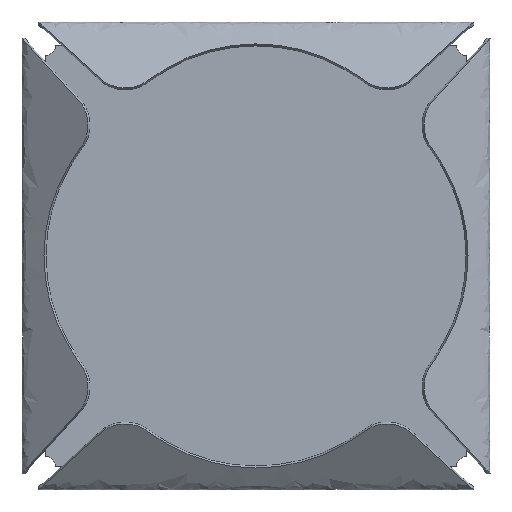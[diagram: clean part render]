
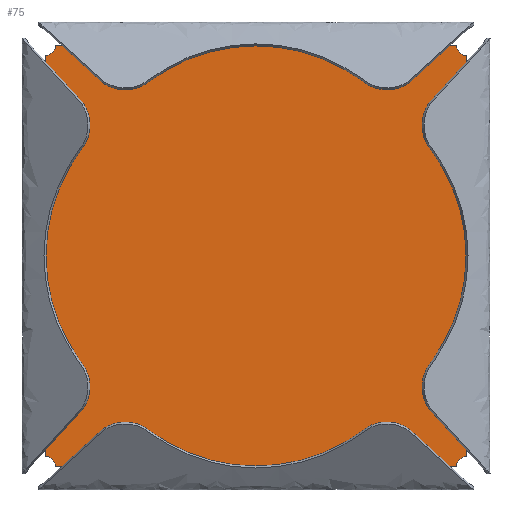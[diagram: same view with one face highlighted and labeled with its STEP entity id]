
A CAD part, top view. The second image highlights one B-rep face of the part: STEP entity #75.
In plain terms, the highlighted planar face has unit normal (0, 0, 1).
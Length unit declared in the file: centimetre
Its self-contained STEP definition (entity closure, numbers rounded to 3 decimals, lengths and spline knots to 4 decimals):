
#75=ADVANCED_FACE($,(#161),#1161,.T.);
#161=FACE_OUTER_BOUND($,#247,.T.);
#247=EDGE_LOOP($,(#356,#357,#358,#359,#360,#361,#362,#363,#364,#365,#366,
#367,#368,#369,#370,#371));
#356=ORIENTED_EDGE($,*,*,#803,.F.);
#357=ORIENTED_EDGE($,*,*,#773,.F.);
#358=ORIENTED_EDGE($,*,*,#789,.F.);
#359=ORIENTED_EDGE($,*,*,#781,.F.);
#360=ORIENTED_EDGE($,*,*,#797,.F.);
#361=ORIENTED_EDGE($,*,*,#782,.F.);
#362=ORIENTED_EDGE($,*,*,#798,.F.);
#363=ORIENTED_EDGE($,*,*,#783,.F.);
#364=ORIENTED_EDGE($,*,*,#799,.F.);
#365=ORIENTED_EDGE($,*,*,#784,.F.);
#366=ORIENTED_EDGE($,*,*,#800,.F.);
#367=ORIENTED_EDGE($,*,*,#785,.F.);
#368=ORIENTED_EDGE($,*,*,#801,.F.);
#369=ORIENTED_EDGE($,*,*,#786,.F.);
#370=ORIENTED_EDGE($,*,*,#802,.F.);
#371=ORIENTED_EDGE($,*,*,#787,.F.);
#773=EDGE_CURVE($,#991,#990,#1339,.T.);
#781=EDGE_CURVE($,#1007,#1006,#1182,.T.);
#782=EDGE_CURVE($,#1009,#1008,#1343,.T.);
#783=EDGE_CURVE($,#1011,#1010,#1183,.T.);
#784=EDGE_CURVE($,#1013,#1012,#1344,.T.);
#785=EDGE_CURVE($,#1015,#1014,#1184,.T.);
#786=EDGE_CURVE($,#1017,#1016,#1345,.T.);
#787=EDGE_CURVE($,#1019,#1018,#1185,.T.);
#789=EDGE_CURVE($,#1006,#991,#1347,.T.);
#797=EDGE_CURVE($,#1008,#1007,#1355,.T.);
#798=EDGE_CURVE($,#1010,#1009,#1356,.T.);
#799=EDGE_CURVE($,#1012,#1011,#1357,.T.);
#800=EDGE_CURVE($,#1014,#1013,#1358,.T.);
#801=EDGE_CURVE($,#1016,#1015,#1359,.T.);
#802=EDGE_CURVE($,#1018,#1017,#1360,.T.);
#803=EDGE_CURVE($,#990,#1019,#1361,.T.);
#990=VERTEX_POINT($,#1804);
#991=VERTEX_POINT($,#1805);
#1006=VERTEX_POINT($,#1820);
#1007=VERTEX_POINT($,#1821);
#1008=VERTEX_POINT($,#1822);
#1009=VERTEX_POINT($,#1823);
#1010=VERTEX_POINT($,#1824);
#1011=VERTEX_POINT($,#1825);
#1012=VERTEX_POINT($,#1826);
#1013=VERTEX_POINT($,#1827);
#1014=VERTEX_POINT($,#1828);
#1015=VERTEX_POINT($,#1829);
#1016=VERTEX_POINT($,#1830);
#1017=VERTEX_POINT($,#1831);
#1018=VERTEX_POINT($,#1832);
#1019=VERTEX_POINT($,#1833);
#1161=PLANE($,#1483);
#1182=B_SPLINE_CURVE_WITH_KNOTS($,1,(#1547,#1548),.UNSPECIFIED.,.F.,.F.,
(2,2),(300.4094,369.4295),.UNSPECIFIED.);
#1183=B_SPLINE_CURVE_WITH_KNOTS($,1,(#1552,#1553),.UNSPECIFIED.,.F.,.F.,
(2,2),(228.182,297.2021),.UNSPECIFIED.);
#1184=B_SPLINE_CURVE_WITH_KNOTS($,1,(#1557,#1558),.UNSPECIFIED.,.F.,.F.,
(2,2),(155.9546,224.9746),.UNSPECIFIED.);
#1185=B_SPLINE_CURVE_WITH_KNOTS($,1,(#1562,#1563),.UNSPECIFIED.,.F.,.F.,
(2,2),(83.7271,152.7472),.UNSPECIFIED.);
#1339=(
BOUNDED_CURVE()
B_SPLINE_CURVE(2,(#1527,#1528,#1529),.UNSPECIFIED.,.F.,.F.)
B_SPLINE_CURVE_WITH_KNOTS((3,3),(80.89,83.3569),.UNSPECIFIED.)
CURVE()
GEOMETRIC_REPRESENTATION_ITEM()
RATIONAL_B_SPLINE_CURVE((1.,0.774,1.))
REPRESENTATION_ITEM($)
);
#1343=(
BOUNDED_CURVE()
B_SPLINE_CURVE(2,(#1549,#1550,#1551),.UNSPECIFIED.,.F.,.F.)
B_SPLINE_CURVE_WITH_KNOTS((3,3),(297.5723,300.0392),.UNSPECIFIED.)
CURVE()
GEOMETRIC_REPRESENTATION_ITEM()
RATIONAL_B_SPLINE_CURVE((1.,0.774,1.))
REPRESENTATION_ITEM($)
);
#1344=(
BOUNDED_CURVE()
B_SPLINE_CURVE(2,(#1554,#1555,#1556),.UNSPECIFIED.,.F.,.F.)
B_SPLINE_CURVE_WITH_KNOTS((3,3),(225.3449,227.8117),.UNSPECIFIED.)
CURVE()
GEOMETRIC_REPRESENTATION_ITEM()
RATIONAL_B_SPLINE_CURVE((1.,0.774,1.))
REPRESENTATION_ITEM($)
);
#1345=(
BOUNDED_CURVE()
B_SPLINE_CURVE(2,(#1559,#1560,#1561),.UNSPECIFIED.,.F.,.F.)
B_SPLINE_CURVE_WITH_KNOTS((3,3),(153.1175,155.5843),.UNSPECIFIED.)
CURVE()
GEOMETRIC_REPRESENTATION_ITEM()
RATIONAL_B_SPLINE_CURVE((1.,0.774,1.))
REPRESENTATION_ITEM($)
);
#1347=(
BOUNDED_CURVE()
B_SPLINE_CURVE(2,(#1567,#1568,#1569),.UNSPECIFIED.,.F.,.F.)
B_SPLINE_CURVE_WITH_KNOTS((3,3),(-1.,0.),.UNSPECIFIED.)
CURVE()
GEOMETRIC_REPRESENTATION_ITEM()
RATIONAL_B_SPLINE_CURVE((1.,0.742,1.))
REPRESENTATION_ITEM($)
);
#1355=(
BOUNDED_CURVE()
B_SPLINE_CURVE(2,(#1591,#1592,#1593),.UNSPECIFIED.,.F.,.F.)
B_SPLINE_CURVE_WITH_KNOTS((3,3),(-1.,0.),.UNSPECIFIED.)
CURVE()
GEOMETRIC_REPRESENTATION_ITEM()
RATIONAL_B_SPLINE_CURVE((1.,0.742,1.))
REPRESENTATION_ITEM($)
);
#1356=(
BOUNDED_CURVE()
B_SPLINE_CURVE(2,(#1594,#1595,#1596),.UNSPECIFIED.,.F.,.F.)
B_SPLINE_CURVE_WITH_KNOTS((3,3),(-1.,0.),.UNSPECIFIED.)
CURVE()
GEOMETRIC_REPRESENTATION_ITEM()
RATIONAL_B_SPLINE_CURVE((1.,0.742,1.))
REPRESENTATION_ITEM($)
);
#1357=(
BOUNDED_CURVE()
B_SPLINE_CURVE(2,(#1597,#1598,#1599),.UNSPECIFIED.,.F.,.F.)
B_SPLINE_CURVE_WITH_KNOTS((3,3),(-1.,0.),.UNSPECIFIED.)
CURVE()
GEOMETRIC_REPRESENTATION_ITEM()
RATIONAL_B_SPLINE_CURVE((1.,0.742,1.))
REPRESENTATION_ITEM($)
);
#1358=(
BOUNDED_CURVE()
B_SPLINE_CURVE(2,(#1600,#1601,#1602),.UNSPECIFIED.,.F.,.F.)
B_SPLINE_CURVE_WITH_KNOTS((3,3),(-1.,0.),.UNSPECIFIED.)
CURVE()
GEOMETRIC_REPRESENTATION_ITEM()
RATIONAL_B_SPLINE_CURVE((1.,0.742,1.))
REPRESENTATION_ITEM($)
);
#1359=(
BOUNDED_CURVE()
B_SPLINE_CURVE(2,(#1603,#1604,#1605),.UNSPECIFIED.,.F.,.F.)
B_SPLINE_CURVE_WITH_KNOTS((3,3),(-1.,0.),.UNSPECIFIED.)
CURVE()
GEOMETRIC_REPRESENTATION_ITEM()
RATIONAL_B_SPLINE_CURVE((1.,0.742,1.))
REPRESENTATION_ITEM($)
);
#1360=(
BOUNDED_CURVE()
B_SPLINE_CURVE(2,(#1606,#1607,#1608),.UNSPECIFIED.,.F.,.F.)
B_SPLINE_CURVE_WITH_KNOTS((3,3),(-1.,0.),.UNSPECIFIED.)
CURVE()
GEOMETRIC_REPRESENTATION_ITEM()
RATIONAL_B_SPLINE_CURVE((1.,0.742,1.))
REPRESENTATION_ITEM($)
);
#1361=(
BOUNDED_CURVE()
B_SPLINE_CURVE(2,(#1609,#1610,#1611),.UNSPECIFIED.,.F.,.F.)
B_SPLINE_CURVE_WITH_KNOTS((3,3),(-1.,0.),.UNSPECIFIED.)
CURVE()
GEOMETRIC_REPRESENTATION_ITEM()
RATIONAL_B_SPLINE_CURVE((1.,0.742,1.))
REPRESENTATION_ITEM($)
);
#1483=AXIS2_PLACEMENT_3D($,#1677,#1504,$);
#1504=DIRECTION($,(0.,0.,1.));
#1527=CARTESIAN_POINT($,(71.209,70.6141,3.1));
#1528=CARTESIAN_POINT($,(71.3561,69.1502,3.1));
#1529=CARTESIAN_POINT($,(72.82,69.0031,3.1));
#1547=CARTESIAN_POINT($,(1.99,70.7941,3.1));
#1548=CARTESIAN_POINT($,(71.01,70.7941,3.1));
#1549=CARTESIAN_POINT($,(0.18,69.0031,3.1));
#1550=CARTESIAN_POINT($,(1.6439,69.1502,3.1));
#1551=CARTESIAN_POINT($,(1.791,70.6141,3.1));
#1552=CARTESIAN_POINT($,(0.,-0.2159,3.1));
#1553=CARTESIAN_POINT($,(0.,68.8041,3.1));
#1554=CARTESIAN_POINT($,(1.791,-2.0259,3.1));
#1555=CARTESIAN_POINT($,(1.6439,-0.5621,3.1));
#1556=CARTESIAN_POINT($,(0.18,-0.4149,3.1));
#1557=CARTESIAN_POINT($,(71.01,-2.2059,3.1));
#1558=CARTESIAN_POINT($,(1.99,-2.2059,3.1));
#1559=CARTESIAN_POINT($,(72.82,-0.4149,3.1));
#1560=CARTESIAN_POINT($,(71.3561,-0.5621,3.1));
#1561=CARTESIAN_POINT($,(71.209,-2.0259,3.1));
#1562=CARTESIAN_POINT($,(73.,68.8041,3.1));
#1563=CARTESIAN_POINT($,(73.,-0.2159,3.1));
#1567=CARTESIAN_POINT($,(71.01,70.7941,3.1));
#1568=CARTESIAN_POINT($,(71.1909,70.7941,3.1));
#1569=CARTESIAN_POINT($,(71.209,70.6141,3.1));
#1591=CARTESIAN_POINT($,(1.791,70.6141,3.1));
#1592=CARTESIAN_POINT($,(1.8091,70.7941,3.1));
#1593=CARTESIAN_POINT($,(1.99,70.7941,3.1));
#1594=CARTESIAN_POINT($,(0.,68.8041,3.1));
#1595=CARTESIAN_POINT($,(0.,68.985,3.1));
#1596=CARTESIAN_POINT($,(0.18,69.0031,3.1));
#1597=CARTESIAN_POINT($,(0.18,-0.4149,3.1));
#1598=CARTESIAN_POINT($,(0.,-0.3969,3.1));
#1599=CARTESIAN_POINT($,(0.,-0.2159,3.1));
#1600=CARTESIAN_POINT($,(1.99,-2.2059,3.1));
#1601=CARTESIAN_POINT($,(1.8091,-2.2059,3.1));
#1602=CARTESIAN_POINT($,(1.791,-2.0259,3.1));
#1603=CARTESIAN_POINT($,(71.209,-2.0259,3.1));
#1604=CARTESIAN_POINT($,(71.1909,-2.2059,3.1));
#1605=CARTESIAN_POINT($,(71.01,-2.2059,3.1));
#1606=CARTESIAN_POINT($,(73.,-0.2159,3.1));
#1607=CARTESIAN_POINT($,(73.,-0.3969,3.1));
#1608=CARTESIAN_POINT($,(72.82,-0.4149,3.1));
#1609=CARTESIAN_POINT($,(72.82,69.0031,3.1));
#1610=CARTESIAN_POINT($,(73.,68.985,3.1));
#1611=CARTESIAN_POINT($,(73.,68.8041,3.1));
#1677=CARTESIAN_POINT($,(0.,70.7941,3.1));
#1804=CARTESIAN_POINT($,(72.82,69.0031,3.1));
#1805=CARTESIAN_POINT($,(71.209,70.6141,3.1));
#1820=CARTESIAN_POINT($,(71.01,70.7941,3.1));
#1821=CARTESIAN_POINT($,(1.99,70.7941,3.1));
#1822=CARTESIAN_POINT($,(1.791,70.6141,3.1));
#1823=CARTESIAN_POINT($,(0.18,69.0031,3.1));
#1824=CARTESIAN_POINT($,(0.,68.8041,3.1));
#1825=CARTESIAN_POINT($,(0.,-0.2159,3.1));
#1826=CARTESIAN_POINT($,(0.18,-0.4149,3.1));
#1827=CARTESIAN_POINT($,(1.791,-2.0259,3.1));
#1828=CARTESIAN_POINT($,(1.99,-2.2059,3.1));
#1829=CARTESIAN_POINT($,(71.01,-2.2059,3.1));
#1830=CARTESIAN_POINT($,(71.209,-2.0259,3.1));
#1831=CARTESIAN_POINT($,(72.82,-0.4149,3.1));
#1832=CARTESIAN_POINT($,(73.,-0.2159,3.1));
#1833=CARTESIAN_POINT($,(73.,68.8041,3.1));
